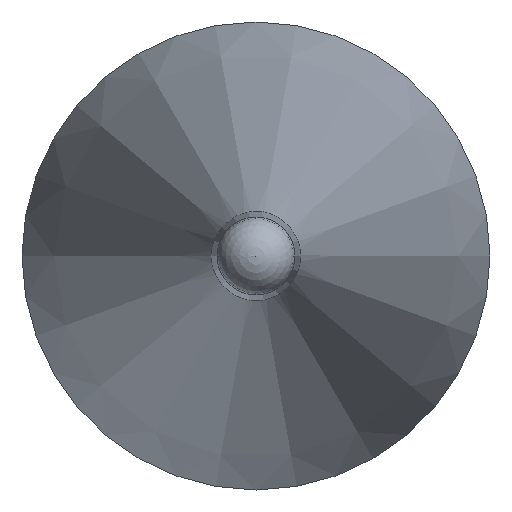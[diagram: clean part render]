
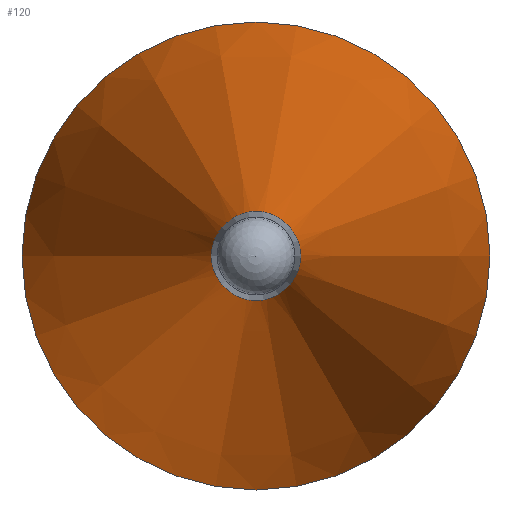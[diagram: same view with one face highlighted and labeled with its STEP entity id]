
A CAD part, left-side view. The second image highlights one B-rep face of the part: STEP entity #120.
In plain terms, the highlighted conical face has half-angle 12 degrees and reference radius 3 mm.
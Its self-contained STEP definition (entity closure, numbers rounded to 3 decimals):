
#97=CONICAL_SURFACE('',#193,3.,12.);
#99=B_SPLINE_CURVE_WITH_KNOTS('',3,(#245,#246,#247,#248,#249,#250,#251,
#252,#253,#254),.UNSPECIFIED.,.T.,.F.,(2,2,2,2,2,2,2),(-0.25,0.,0.25,0.5,
0.75,1.,1.25),.UNSPECIFIED.);
#107=FACE_BOUND('',#135,.T.);
#108=FACE_BOUND('',#136,.T.);
#120=ADVANCED_FACE('',(#107,#108),#97,.T.);
#135=EDGE_LOOP('',(#151));
#136=EDGE_LOOP('',(#152));
#151=ORIENTED_EDGE('',*,*,#173,.F.);
#152=ORIENTED_EDGE('',*,*,#174,.T.);
#165=VERTEX_POINT('',#255);
#166=VERTEX_POINT('',#258);
#173=EDGE_CURVE('',#165,#165,#99,.T.);
#174=EDGE_CURVE('',#166,#166,#181,.T.);
#181=CIRCLE('',#192,3.);
#192=AXIS2_PLACEMENT_3D('',#257,#216,#217);
#193=AXIS2_PLACEMENT_3D('',#259,#218,#219);
#216=DIRECTION('',(-1.,0.,0.));
#217=DIRECTION('',(0.,0.,1.));
#218=DIRECTION('',(1.,0.,0.));
#219=DIRECTION('',(0.,0.,-1.));
#245=CARTESIAN_POINT('',(7908.912,6103.862,0.301));
#246=CARTESIAN_POINT('',(7908.912,6103.862,-0.301));
#247=CARTESIAN_POINT('',(7908.912,6103.589,-0.574));
#248=CARTESIAN_POINT('',(7908.912,6102.988,-0.574));
#249=CARTESIAN_POINT('',(7908.912,6102.714,-0.301));
#250=CARTESIAN_POINT('',(7908.912,6102.714,0.301));
#251=CARTESIAN_POINT('',(7908.912,6102.988,0.574));
#252=CARTESIAN_POINT('',(7908.912,6103.589,0.574));
#253=CARTESIAN_POINT('',(7908.912,6103.862,0.301));
#254=CARTESIAN_POINT('',(7908.912,6103.862,-0.301));
#255=CARTESIAN_POINT('',(7908.912,6103.862,0.));
#257=CARTESIAN_POINT('',(7920.325,6103.288,0.));
#258=CARTESIAN_POINT('',(7920.325,6103.288,3.));
#259=CARTESIAN_POINT('',(7920.325,6103.288,0.));
